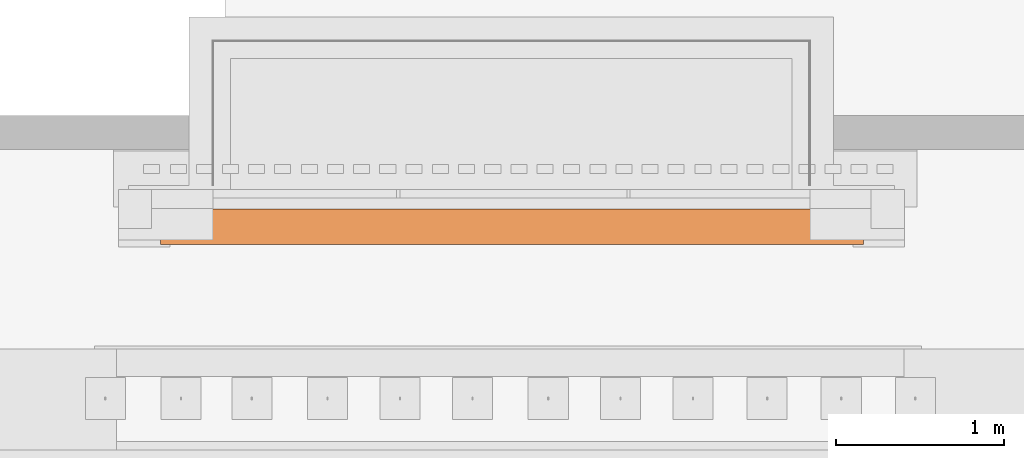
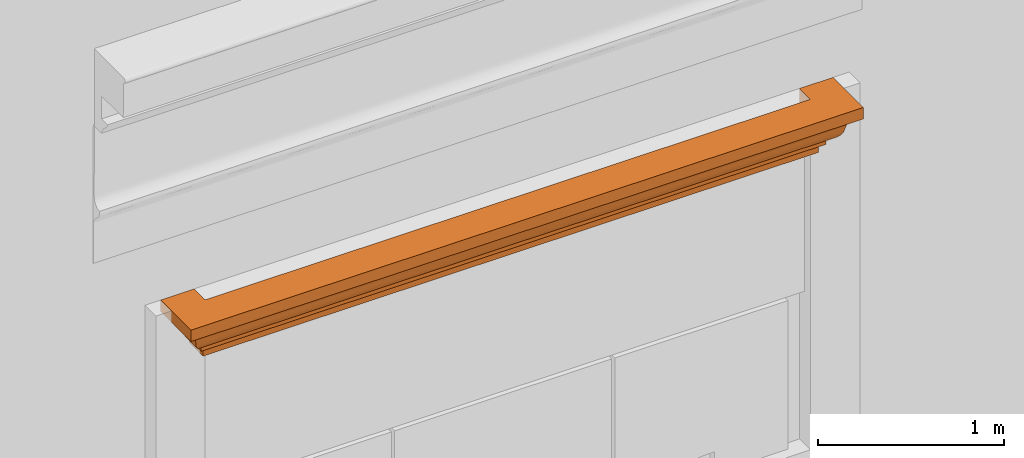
# One storey, part 14 of 14: 1 proxy.
"""IFC2X3 building model written with IfcOpenShell, lengths in metres."""

import ifcopenshell
import ifcopenshell.guid

model = None  # the IFC model being written
_history = None  # IfcOwnerHistory: only IFC2X3 demands one
_inside = {}  # id of a spatial element -> (the spatial element, [elements in it])
_under = {}  # id of a project, library or spatial element -> (it, [spatial elements below it])
_declared = {}  # id of a project -> (the project, [libraries it declares])
_typed = {}  # id of a type object -> (the type object, [elements of that type])
_made_of = {}  # id of a material, layer set ... -> (it, [elements and type objects made of it])


def new_model(schema):
    """Start an empty IFC model of exactly this schema.

    Asked for "IFC4X3", IfcOpenShell would pick the latest addendum, in which some entities
    have other attributes; the version numbers below select the first issue.
    IFC2X3 requires an IfcOwnerHistory on every rooted entity: one is made here for all.
    """
    global model, _history
    if schema == "IFC4X3":
        model = ifcopenshell.file(schema_version=(4, 3, 0, 0))
    else:
        model = ifcopenshell.file(schema=schema)
    _inside.clear()
    _under.clear()
    _declared.clear()
    _typed.clear()
    _made_of.clear()
    _history = None
    if model.schema == "IFC2X3":
        org = make("IfcOrganization", Name="unknown")
        user = make(
            "IfcPersonAndOrganization",
            ThePerson=make("IfcPerson", FamilyName="unknown"),
            TheOrganization=org,
        )
        app = make(
            "IfcApplication",
            ApplicationDeveloper=org,
            Version="unknown",
            ApplicationFullName="unknown",
            ApplicationIdentifier="unknown",
        )
        _history = make(
            "IfcOwnerHistory",
            OwningUser=user,
            OwningApplication=app,
            ChangeAction="ADDED",
            CreationDate=0,
        )
    return model


def make(cls, **values):
    """One entity of the class cls with the attributes given. An attribute that is None is left unset."""
    return model.create_entity(
        cls, **{name: value for name, value in values.items() if value is not None}
    )


def entity(cls, *values):
    """Any entity or typed value of the class cls, its attributes in the order of the schema. None: left unset."""
    e = model.create_entity(cls)
    for i, value in enumerate(values):
        if value is not None:
            e[i] = value
    return e


def rooted(cls, **values):
    """An entity with a GlobalId (a new one), such as an element, a storey or a relation."""
    return make(cls, GlobalId=ifcopenshell.guid.new(), OwnerHistory=_history, **values)


def si_unit(unit_type, name, prefix=None):
    """IfcSIUnit, for example si_unit("LENGTHUNIT", "METRE", prefix="MILLI")."""
    return make("IfcSIUnit", UnitType=unit_type, Prefix=prefix, Name=name)


def converted_unit(unit_type, name, factor, base, dimensions=None, offset=None):
    """IfcConversionBasedUnit, such as the inch: factor (a typed value) times the base unit."""
    return make(
        "IfcConversionBasedUnit"
        if offset is None
        else "IfcConversionBasedUnitWithOffset",
        ConversionOffset=offset,
        Dimensions=None
        if dimensions is None
        else entity("IfcDimensionalExponents", *dimensions),
        UnitType=unit_type,
        Name=name,
        ConversionFactor=make(
            "IfcMeasureWithUnit", ValueComponent=factor, UnitComponent=base
        ),
    )


def derived_unit(unit_type, elements):
    """IfcDerivedUnit: a product of units, each with its exponent."""
    return make(
        "IfcDerivedUnit",
        Elements=[
            make("IfcDerivedUnitElement", Unit=unit, Exponent=power)
            for unit, power in elements
        ],
        UnitType=unit_type,
    )


def assignment(units):
    """IfcUnitAssignment: the units of a project."""
    return None if units is None else make("IfcUnitAssignment", Units=units)


def point(xyz):
    """IfcCartesianPoint."""
    return None if xyz is None else make("IfcCartesianPoint", Coordinates=xyz)


def direction(xyz):
    """IfcDirection."""
    return None if xyz is None else make("IfcDirection", DirectionRatios=xyz)


def frame(location, z_axis=None, x_axis=None):
    """IfcAxis2Placement3D, a coordinate frame: its origin and axes. An axis left out is left unset."""
    return make(
        "IfcAxis2Placement3D",
        Location=point(location),
        Axis=direction(z_axis),
        RefDirection=direction(x_axis),
    )


def origin():
    """The frame at (0, 0, 0) with its axes left unset."""
    return frame((0.0, 0.0, 0.0))


def place(relative_to, where):
    """IfcLocalPlacement: puts the frame where relative to a parent placement (None: the world)."""
    return make(
        "IfcLocalPlacement", PlacementRelTo=relative_to, RelativePlacement=where
    )


def context(
    kind, dimensions, precision=None, world=None, true_north=None, identifier=None
):
    """IfcGeometricRepresentationContext, for example the 3D "Model" context."""
    return make(
        "IfcGeometricRepresentationContext",
        ContextIdentifier=identifier,
        ContextType=kind,
        CoordinateSpaceDimension=dimensions,
        Precision=precision,
        WorldCoordinateSystem=world,
        TrueNorth=true_north,
    )


def subcontext(parent, identifier, kind, view, scale=None):
    """IfcGeometricRepresentationSubContext, for example "Body" below "Model"."""
    return make(
        "IfcGeometricRepresentationSubContext",
        ContextIdentifier=identifier,
        ContextType=kind,
        ParentContext=parent,
        TargetScale=scale,
        TargetView=view,
    )


def project(units=None, contexts=None):
    """IfcProject with its units and contexts."""
    return rooted(
        "IfcProject",
        Name="project",
        RepresentationContexts=contexts,
        UnitsInContext=assignment(units),
    )


def spatial(cls, under=None, at=None, **own):
    """A site, building, storey or space (cls), placed at a placement, below another one or the project."""
    s = rooted(cls, ObjectPlacement=at, **own)
    if under is not None:
        _under.setdefault(under.id(), (under, []))[1].append(s)
    return s


def faces_of(points, faces, orient=None, outer=None):
    """IfcFace entities. A face is a list of loops; a loop is a list of indices into points, from 0.

    orient and outer hold one flag for each loop. By default every Orientation is true, the
    first loop of a face is its IfcFaceOuterBound and the others are IfcFaceBound.
    """
    made = []
    for i, loops in enumerate(faces):
        bounds = []
        for j, loop in enumerate(loops):
            is_outer = j == 0 if outer is None else outer[i][j]
            bounds.append(
                make(
                    "IfcFaceOuterBound" if is_outer else "IfcFaceBound",
                    Bound=make("IfcPolyLoop", Polygon=[points[k] for k in loop]),
                    Orientation=True if orient is None else orient[i][j],
                )
            )
        made.append(make("IfcFace", Bounds=bounds))
    return made


def faceted_brep(points, faces, orient=None, outer=None, voids=None):
    """IfcFacetedBrep: a solid bounded by flat faces; with voids (closed shells), ...WithVoids."""
    shared = [point(p) for p in points]
    hull = make("IfcClosedShell", CfsFaces=faces_of(shared, faces, orient, outer))
    if voids is None:
        return make("IfcFacetedBrep", Outer=hull)
    return make(
        "IfcFacetedBrepWithVoids",
        Outer=hull,
        Voids=[
            make(cls, CfsFaces=faces_of(shared, fs, o, b)) for cls, fs, o, b in voids
        ],
    )


def shape(context_of_items, identifier, shape_type, items):
    """IfcShapeRepresentation: the items that make up one representation, for example the "Body"."""
    return make(
        "IfcShapeRepresentation",
        ContextOfItems=context_of_items,
        RepresentationIdentifier=identifier,
        RepresentationType=shape_type,
        Items=items,
    )


def material(Name=None, Category=None):
    """IfcMaterial."""
    return make("IfcMaterial", Name=Name, Category=Category)


def made_of(thing, what):
    """Note that an element or type object is made of a material, layer set ...; save() writes the relation."""
    if what is not None:
        _made_of.setdefault(what.id(), (what, []))[1].append(thing)
    return thing


def element(
    cls,
    number,
    at=None,
    inside=None,
    cuts=None,
    type_object=None,
    material=None,
    context=None,
    identifier="Body",
    shape_type=None,
    held_by="IfcProductDefinitionShape",
    body=None,
    shapes=None,
    **own,
):
    """One element of the class cls, such as IfcWall. Its Tag is "e" and its number.

    at: its placement. inside: the storey or other place that contains it. cuts: it is an
    opening in that element (IfcRelVoidsElement). A single representation is given by context,
    identifier, shape_type and body (its items); several are given by shapes. held_by: the class
    of the entity that holds the representations. save() writes the other relations.
    """
    e = rooted(cls, Tag="e%d" % number, ObjectPlacement=at, **own)
    if body is not None:
        shapes = [shape(context, identifier, shape_type, body)]
    if shapes is not None:
        e.Representation = make(held_by, Representations=shapes)
    if inside is not None:
        _inside.setdefault(inside.id(), (inside, []))[1].append(e)
    if cuts is not None:
        rooted(
            "IfcRelVoidsElement", RelatingBuildingElement=cuts, RelatedOpeningElement=e
        )
    if type_object is not None:
        _typed.setdefault(type_object.id(), (type_object, []))[1].append(e)
    return made_of(e, material)


def aggregate(whole, parts):
    """IfcRelAggregates: a whole, such as a stair, and the parts it consists of."""
    return rooted("IfcRelAggregates", RelatingObject=whole, RelatedObjects=parts)


def save(model, path):
    """Write the relations noted so far, then the file.

    IfcRelAggregates (storeys below a building ...), IfcRelContainedInSpatialStructure (elements
    in a storey), IfcRelDefinesByType, IfcRelAssociatesMaterial and IfcRelDeclares: one each for
    every whole, place, type object, material and project.
    """
    for whole, parts in _under.values():
        aggregate(whole, parts)
    for where, things in _inside.values():
        rooted(
            "IfcRelContainedInSpatialStructure",
            RelatedElements=things,
            RelatingStructure=where,
        )
    for kind, things in _typed.values():
        rooted("IfcRelDefinesByType", RelatedObjects=things, RelatingType=kind)
    for what, things in _made_of.values():
        rooted("IfcRelAssociatesMaterial", RelatedObjects=things, RelatingMaterial=what)
    for by, libraries in _declared.values():
        rooted("IfcRelDeclares", RelatingContext=by, RelatedDefinitions=libraries)
    model.write(path)


model = new_model("IFC2X3")

# Units and contexts
model_context = context("Model", 3, precision=1e-05, world=origin(), true_north=direction((6.12303176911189e-17, 1.0)))
body_context = subcontext(model_context, "Body", "Model", "MODEL_VIEW")
ifc_project = project(units=[si_unit("LENGTHUNIT", "METRE"), si_unit("AREAUNIT", "SQUARE_METRE"), si_unit("VOLUMEUNIT", "CUBIC_METRE"), converted_unit("PLANEANGLEUNIT", "DEGREE", entity("IfcRatioMeasure", 0.0174532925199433), si_unit("PLANEANGLEUNIT", "RADIAN"), dimensions=[0, 0, 0, 0, 0, 0, 0]), si_unit("MASSUNIT", "GRAM", prefix="KILO"), derived_unit("MASSDENSITYUNIT", [(si_unit("MASSUNIT", "GRAM", prefix="KILO"), 1), (si_unit("LENGTHUNIT", "METRE"), -3)]), si_unit("TIMEUNIT", "SECOND"), si_unit("FREQUENCYUNIT", "HERTZ"), si_unit("THERMODYNAMICTEMPERATUREUNIT", "DEGREE_CELSIUS"), derived_unit("THERMALTRANSMITTANCEUNIT", [(si_unit("MASSUNIT", "GRAM", prefix="KILO"), 1), (si_unit("THERMODYNAMICTEMPERATUREUNIT", "KELVIN"), -1), (si_unit("TIMEUNIT", "SECOND"), -3)]), derived_unit("VOLUMETRICFLOWRATEUNIT", [(si_unit("LENGTHUNIT", "METRE"), 3), (si_unit("TIMEUNIT", "SECOND"), -1)]), si_unit("ELECTRICCURRENTUNIT", "AMPERE"), si_unit("ELECTRICVOLTAGEUNIT", "VOLT"), si_unit("POWERUNIT", "WATT"), si_unit("FORCEUNIT", "NEWTON", prefix="KILO"), si_unit("ILLUMINANCEUNIT", "LUX"), si_unit("LUMINOUSFLUXUNIT", "LUMEN"), si_unit("LUMINOUSINTENSITYUNIT", "CANDELA"), derived_unit("USERDEFINED", [(si_unit("MASSUNIT", "GRAM", prefix="KILO"), -1), (si_unit("LENGTHUNIT", "METRE"), -2), (si_unit("TIMEUNIT", "SECOND"), 3), (si_unit("LUMINOUSFLUXUNIT", "LUMEN"), 1)]), derived_unit("LINEARVELOCITYUNIT", [(si_unit("LENGTHUNIT", "METRE"), 1), (si_unit("TIMEUNIT", "SECOND"), -1)]), si_unit("PRESSUREUNIT", "PASCAL"), derived_unit("USERDEFINED", [(si_unit("LENGTHUNIT", "METRE"), -2), (si_unit("MASSUNIT", "GRAM", prefix="KILO"), 1), (si_unit("TIMEUNIT", "SECOND"), -2)])], contexts=[model_context])

# Site, building, storey
site_placement = place(None, origin())
site = spatial("IfcSite", under=ifc_project, at=site_placement, Name="Default", CompositionType="ELEMENT")
building_placement = place(site_placement, origin())
building = spatial("IfcBuilding", under=site, at=building_placement, CompositionType="ELEMENT")
storey_placement = place(building_placement, frame((0.0, 0.0, 13.366833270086)))
storey = spatial("IfcBuildingStorey", under=building, at=storey_placement, Name="Livello 2", CompositionType="ELEMENT", Elevation=13.366833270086)

# Proxy
ifc_material = material(Name="Travertino")
proxy_placement = place(storey_placement, frame((4.99086336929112, 0.6976591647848, 7.76619310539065)))
element("IfcBuildingElementProxy", 1, at=proxy_placement, inside=storey, material=ifc_material, Name="Stratigrafia", context=body_context, shape_type="Brep", body=[
    faceted_brep([(4.17513991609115, 0.327873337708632, 0.33947525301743), (4.17492155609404, 0.327873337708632, 0.264509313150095), (4.15267868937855, 0.327873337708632, 0.256423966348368), (4.13319639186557, 0.327873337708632, 0.242986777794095), (4.11773597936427, 0.327873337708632, 0.225067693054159), (4.10729838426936, 0.327873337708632, 0.203826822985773), (4.10255935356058, 0.327873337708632, 0.180639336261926), (4.0971734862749, 0.327873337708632, 0.157343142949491), (4.08620447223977, 0.327873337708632, 0.136096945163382), (4.07033099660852, 0.327873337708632, 0.118215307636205), (4.05053519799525, 0.327873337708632, 0.104804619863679), (4.02804190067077, 0.327873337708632, 0.0966946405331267), (4.02804190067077, 0.327873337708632, 0.060083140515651), (3.99891392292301, 0.327873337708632, 0.060083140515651), (3.99880246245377, 0.327873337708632, 0.0), (3.96629397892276, 0.327873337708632, 0.0), (3.96629397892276, 0.327873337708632, 0.33947525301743), (0.0238381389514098, 0.327873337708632, 0.256423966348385), (0.00159527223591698, 0.327873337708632, 0.264509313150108), (0.00137691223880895, 0.327873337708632, 0.339475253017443), (0.210222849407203, 0.327873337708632, 0.339475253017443), (0.210222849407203, 0.327873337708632, 0.0), (0.177714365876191, 0.327873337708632, 0.0), (0.177602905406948, 0.327873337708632, 0.060083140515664), (0.148474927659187, 0.327873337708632, 0.060083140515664), (0.148474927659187, 0.327873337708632, 0.0966946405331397), (0.12598163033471, 0.327873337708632, 0.104804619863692), (0.106185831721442, 0.327873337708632, 0.118215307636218), (0.0903123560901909, 0.327873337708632, 0.136096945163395), (0.0793433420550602, 0.327873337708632, 0.157343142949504), (0.0739574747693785, 0.327873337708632, 0.180639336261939), (0.0692184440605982, 0.327873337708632, 0.203826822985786), (0.0587808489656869, 0.327873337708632, 0.225067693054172), (0.0433204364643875, 0.327873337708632, 0.242986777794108), (0.210222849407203, 0.210222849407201, 0.0), (3.96629397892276, 0.210222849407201, 0.0), (3.99880246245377, 0.177714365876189, 0.0), (0.177714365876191, 0.177714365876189, 0.0), (3.99891392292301, 0.177602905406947, 0.060083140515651), (0.177602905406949, 0.177602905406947, 0.060083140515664), (4.02804190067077, 0.148474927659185, 0.060083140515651), (0.148474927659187, 0.148474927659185, 0.060083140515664), (4.02804190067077, 0.148474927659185, 0.0966946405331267), (4.05053519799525, 0.125981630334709, 0.104804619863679), (4.07033099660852, 0.106185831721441, 0.118215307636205), (4.08620447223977, 0.0903123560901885, 0.136096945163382), (4.0971734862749, 0.0793433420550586, 0.157343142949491), (4.10255935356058, 0.0739574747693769, 0.180639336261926), (4.10729838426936, 0.0692184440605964, 0.203826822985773), (4.11773597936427, 0.0587808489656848, 0.225067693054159), (4.13319639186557, 0.043320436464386, 0.242986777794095), (4.15267868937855, 0.023838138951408, 0.256423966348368), (4.17492155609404, 0.00159527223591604, 0.264509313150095), (4.17513991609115, 0.00137691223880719, 0.33947525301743), (3.96629397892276, 0.210222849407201, 0.33947525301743), (0.210222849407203, 0.210222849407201, 0.339475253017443), (0.00137691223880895, 0.00137691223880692, 0.339475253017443), (3.68570049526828, 0.148474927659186, 0.0966946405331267), (3.34335908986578, 0.148474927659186, 0.096694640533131), (2.65867627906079, 0.148474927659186, 0.096694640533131), (1.9739934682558, 0.148474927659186, 0.096694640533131), (1.28931065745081, 0.148474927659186, 0.0966946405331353), (0.718892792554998, 0.148474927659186, 0.0966946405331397), (0.148474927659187, 0.148474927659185, 0.0966946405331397), (0.760073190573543, 0.083844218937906, 0.14700395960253), (0.0903123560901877, 0.0903123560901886, 0.136096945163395), (0.571785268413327, 0.097218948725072, 0.127196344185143), (0.506787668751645, 0.0773610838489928, 0.163344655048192), (0.75861479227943, 0.0739574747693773, 0.180639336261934), (0.747471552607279, 0.0739574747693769, 0.180639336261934), (0.0739574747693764, 0.0739574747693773, 0.180639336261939), (0.791749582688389, 0.114618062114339, 0.111611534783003), (0.930594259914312, 0.0926591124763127, 0.132825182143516), (3.41922875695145, 0.0838455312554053, 0.147001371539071), (3.24252544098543, 0.0994666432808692, 0.124714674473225), (3.60554749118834, 0.0972197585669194, 0.127195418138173), (1.00410767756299, 0.131839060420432, 0.102067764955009), (0.0793433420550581, 0.0793433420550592, 0.157343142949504), (1.2982734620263, 0.0965026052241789, 0.128024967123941), (1.25956240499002, 0.0834349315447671, 0.147820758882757), (3.674855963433, 0.0775219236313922, 0.162803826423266), (3.45764301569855, 0.0739574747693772, 0.18063933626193), (3.26799472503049, 0.0772366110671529, 0.163771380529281), (0.125981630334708, 0.125981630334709, 0.104804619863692), (0.10618583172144, 0.106185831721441, 0.118215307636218), (2.77348395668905, 0.077414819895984, 0.163162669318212), (2.47034036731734, 0.0809837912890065, 0.153177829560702), (2.93812395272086, 0.0832695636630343, 0.148156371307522), (2.88324292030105, 0.125203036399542, 0.105205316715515), (2.31633983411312, 0.124588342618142, 0.105528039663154), (3.38755033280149, 0.114622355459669, 0.111608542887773), (1.78565954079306, 0.082177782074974, 0.150459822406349), (2.127999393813, 0.073957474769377, 0.18063933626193), (2.08203985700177, 0.0739574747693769, 0.18063933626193), (1.44330709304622, 0.0739574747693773, 0.180639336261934), (1.4416548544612, 0.119993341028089, 0.10812568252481), (2.47015453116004, 0.0963719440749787, 0.12817818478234), (2.12260650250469, 0.0886736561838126, 0.138566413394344), (0.903231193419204, 0.0773507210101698, 0.163379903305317), (0.573874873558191, 0.130083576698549, 0.102837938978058), (3.5145312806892, 0.131193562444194, 0.102346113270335), (3.00993297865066, 0.109529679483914, 0.115413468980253), (1.71179749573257, 0.107759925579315, 0.11686414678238), (1.72893729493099, 0.09401220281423, 0.131062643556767), (1.87375797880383, 0.124003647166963, 0.105840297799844), (2.09144363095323, 0.101834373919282, 0.12227803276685), (2.81269169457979, 0.0739574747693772, 0.18063933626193), (2.75555393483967, 0.0739574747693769, 0.18063933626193), (2.60953602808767, 0.10973973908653, 0.115245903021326), (2.88465574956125, 0.0965088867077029, 0.128017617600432), (1.28073056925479, 0.0769913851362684, 0.164634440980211), (1.40852577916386, 0.0739574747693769, 0.180639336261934), (3.42906801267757, 0.0739574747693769, 0.18063933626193), (0.508344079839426, 0.0708596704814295, 0.198506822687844), (0.938984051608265, 0.0708750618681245, 0.198450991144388), (0.749676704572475, 0.0643828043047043, 0.215375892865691), (0.329178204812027, 0.0335673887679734, 0.250629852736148), (0.0238381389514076, 0.0238381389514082, 0.256423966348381), (0.0433204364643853, 0.0433204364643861, 0.242986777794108), (2.95365611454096, 0.069272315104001, 0.203668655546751), (2.41879450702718, 0.0681276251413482, 0.206848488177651), (3.63866289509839, 0.0511644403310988, 0.235048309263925), (3.84549854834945, 0.0335646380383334, 0.250631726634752), (2.73363118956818, 0.0617669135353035, 0.220238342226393), (0.536896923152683, 0.0511653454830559, 0.235047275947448), (0.900669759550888, 0.055457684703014, 0.229769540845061), (0.718124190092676, 0.0329844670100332, 0.251023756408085), (3.76673850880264, 0.0163768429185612, 0.259864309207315), (3.4551522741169, 0.0329795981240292, 0.251027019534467), (3.70199361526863, 0.0714027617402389, 0.196447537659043), (3.31664739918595, 0.071072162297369, 0.197723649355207), (3.81272529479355, 0.0645494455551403, 0.215041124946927), (1.39795136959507, 0.066643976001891, 0.210510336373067), (1.25490531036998, 0.0504819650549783, 0.235818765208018), (2.69562487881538, 0.00159527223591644, 0.264509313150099), (2.3588660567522, 0.0230887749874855, 0.256806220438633), (2.92702376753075, 0.0244347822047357, 0.256113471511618), (0.0587808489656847, 0.058780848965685, 0.225067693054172), (0.069218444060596, 0.069218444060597, 0.203826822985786), (0.786362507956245, 0.0176866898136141, 0.259317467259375), (0.67509428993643, 0.00159527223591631, 0.264509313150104), (0.410064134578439, 0.0163928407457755, 0.25985777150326), (2.08109934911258, 0.0550700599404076, 0.230279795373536), (2.20039544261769, 0.0403591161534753, 0.245533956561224), (1.80804153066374, 0.0452274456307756, 0.241226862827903), (1.24956361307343, 0.0292533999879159, 0.253397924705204), (1.34862684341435, 0.00159527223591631, 0.264509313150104), (3.50142253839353, 0.00159527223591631, 0.264509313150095), (3.39098260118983, 0.0176734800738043, 0.259323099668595), (3.09852370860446, 0.00159527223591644, 0.264509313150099), (3.27600298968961, 0.0476089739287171, 0.238883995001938), (3.42058318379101, 0.064380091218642, 0.215381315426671), (3.00155312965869, 0.0384456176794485, 0.247069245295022), (1.90726897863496, 0.0676392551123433, 0.208104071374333), (0.00159527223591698, 0.00159527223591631, 0.264509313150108), (1.64098983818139, 0.0580145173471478, 0.226208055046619), (2.02212586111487, 0.00159527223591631, 0.264509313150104), (2.49231209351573, 0.0525253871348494, 0.233458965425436), (1.78913426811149, 0.0297756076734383, 0.253080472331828), (2.63808440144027, 0.0385285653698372, 0.247004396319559), (2.90721157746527, 0.0504681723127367, 0.235834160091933)], [[[0, 1, 2, 3, 4, 5, 6, 7, 8, 9, 10, 11, 12, 13, 14, 15, 16]], [[17, 18, 19, 20, 21, 22, 23, 24, 25, 26, 27, 28, 29, 30, 31, 32, 33]], [[34, 35, 15, 14, 36, 37, 22, 21]], [[36, 14, 13, 38]], [[39, 38, 13, 12, 40, 41, 24, 23]], [[42, 40, 12, 11]], [[43, 42, 11, 10]], [[44, 43, 10, 9]], [[9, 8, 45, 44]], [[46, 45, 8, 7]], [[47, 46, 7, 6]], [[47, 6, 5, 48]], [[48, 5, 4, 49]], [[4, 3, 50, 49]], [[50, 3, 2, 51]], [[51, 2, 1, 52]], [[52, 1, 0, 53]], [[54, 55, 20, 19, 56, 53, 0, 16]], [[54, 16, 15, 35]], [[39, 37, 36, 38]], [[41, 40, 42, 57, 58, 59, 60, 61, 62, 63]], [[64, 65, 66]], [[67, 68, 69, 70]], [[71, 72, 66]], [[73, 74, 75]], [[62, 61, 76]], [[46, 73, 45]], [[75, 44, 45]], [[65, 64, 77]], [[78, 79, 72]], [[73, 46, 80]], [[80, 81, 82]], [[83, 71, 84]], [[85, 86, 87]], [[75, 45, 73]], [[66, 65, 84]], [[59, 88, 89]], [[90, 43, 44]], [[91, 92, 93, 94]], [[61, 95, 76]], [[96, 86, 97]], [[57, 42, 43]], [[79, 98, 64]], [[78, 71, 95]], [[76, 71, 99]], [[58, 57, 100]], [[59, 58, 88]], [[64, 67, 77]], [[98, 67, 64]], [[75, 90, 44]], [[63, 99, 83]], [[74, 101, 90]], [[64, 66, 72]], [[47, 80, 46]], [[66, 84, 71]], [[102, 103, 78]], [[102, 104, 105]], [[85, 106, 107, 92]], [[88, 101, 108]], [[59, 89, 60]], [[104, 95, 61]], [[86, 92, 91]], [[103, 97, 91]], [[85, 87, 82]], [[108, 109, 96]], [[95, 104, 102]], [[108, 96, 105]], [[89, 88, 108]], [[100, 90, 88]], [[58, 100, 88]], [[43, 100, 57]], [[90, 100, 43]], [[89, 108, 105]], [[109, 108, 101]], [[105, 96, 97]], [[86, 96, 87]], [[105, 97, 103]], [[91, 97, 86]], [[105, 103, 102]], [[79, 78, 103]], [[89, 105, 104]], [[95, 102, 78]], [[104, 60, 89]], [[60, 104, 61]], [[109, 101, 74]], [[90, 101, 88]], [[87, 109, 74]], [[75, 74, 90]], [[62, 76, 99]], [[71, 76, 95]], [[62, 99, 63]], [[99, 71, 83]], [[77, 67, 70]], [[68, 67, 98]], [[110, 94, 111, 68]], [[79, 91, 110]], [[98, 79, 110]], [[91, 79, 103]], [[73, 80, 82]], [[81, 80, 47]], [[87, 73, 82]], [[82, 81, 112, 106]], [[73, 87, 74]], [[109, 87, 96]], [[64, 72, 79]], [[78, 72, 71]], [[98, 110, 68]], [[94, 110, 91]], [[86, 85, 92]], [[106, 85, 82]], [[113, 114, 115]], [[116, 117, 118]], [[119, 120, 107]], [[121, 50, 122]], [[119, 123, 120]], [[121, 49, 50]], [[124, 125, 126]], [[127, 128, 122]], [[112, 129, 130]], [[122, 50, 51]], [[49, 131, 48]], [[125, 132, 133]], [[116, 124, 126]], [[134, 135, 136]], [[137, 138, 115]], [[137, 124, 118]], [[139, 140, 141]], [[142, 143, 144]], [[48, 131, 129]], [[145, 146, 139]], [[70, 69, 113]], [[52, 147, 127]], [[133, 144, 145]], [[117, 116, 141]], [[136, 148, 149]], [[150, 151, 121]], [[138, 113, 115]], [[114, 111, 132]], [[128, 152, 150]], [[48, 129, 47]], [[131, 121, 151]], [[137, 115, 124]], [[125, 124, 115]], [[153, 111, 94, 93]], [[117, 141, 154]], [[144, 155, 142]], [[120, 93, 92, 107]], [[135, 134, 156]], [[155, 153, 142]], [[142, 153, 120]], [[120, 123, 157]], [[120, 157, 142]], [[135, 156, 158]], [[157, 143, 142]], [[156, 146, 158]], [[159, 152, 136]], [[143, 159, 135]], [[148, 128, 127]], [[130, 107, 106, 112]], [[123, 151, 160]], [[151, 123, 119]], [[123, 160, 157]], [[157, 159, 143]], [[159, 157, 160]], [[135, 158, 143]], [[144, 143, 158]], [[152, 159, 160]], [[135, 159, 136]], [[145, 144, 158]], [[155, 133, 132]], [[133, 155, 144]], [[155, 132, 153]], [[111, 153, 132]], [[93, 120, 153]], [[150, 152, 160]], [[128, 136, 152]], [[151, 150, 160]], [[128, 150, 121]], [[121, 131, 49]], [[119, 130, 151]], [[151, 129, 131]], [[129, 112, 81, 47]], [[151, 130, 129]], [[107, 130, 119]], [[124, 116, 118]], [[126, 139, 141]], [[126, 141, 116]], [[154, 141, 140]], [[145, 139, 126]], [[146, 140, 139]], [[133, 145, 126]], [[146, 145, 158]], [[127, 122, 51]], [[121, 122, 128]], [[52, 127, 51]], [[127, 147, 148]], [[149, 134, 136]], [[136, 128, 148]], [[148, 147, 149]], [[70, 113, 138]], [[114, 113, 69]], [[114, 69, 68, 111]], [[132, 115, 114]], [[132, 125, 115]], [[126, 125, 133]], [[53, 56, 154, 140, 146, 156, 134, 149, 147, 52]], [[34, 55, 54, 35]], [[23, 22, 37, 39]], [[25, 24, 41, 63]], [[26, 25, 63, 83]], [[27, 26, 83, 84]], [[84, 65, 28, 27]], [[29, 28, 65, 77]], [[30, 29, 77, 70]], [[138, 137, 32, 31]], [[70, 138, 31, 30]], [[137, 118, 33, 32]], [[117, 154, 18, 17]], [[118, 117, 17, 33]], [[19, 18, 154, 56]], [[20, 55, 34, 21]]]),
])

save(model, "model.ifc")
